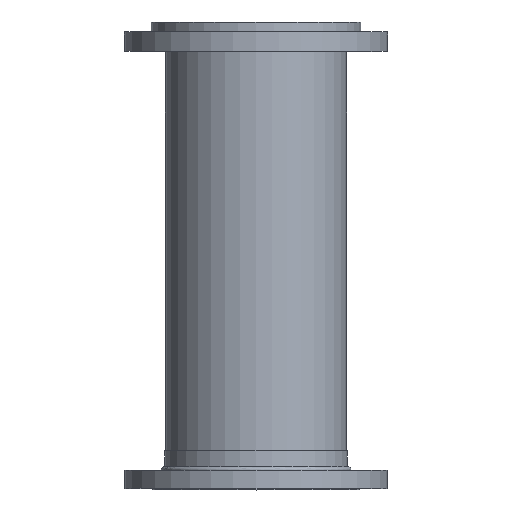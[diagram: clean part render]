
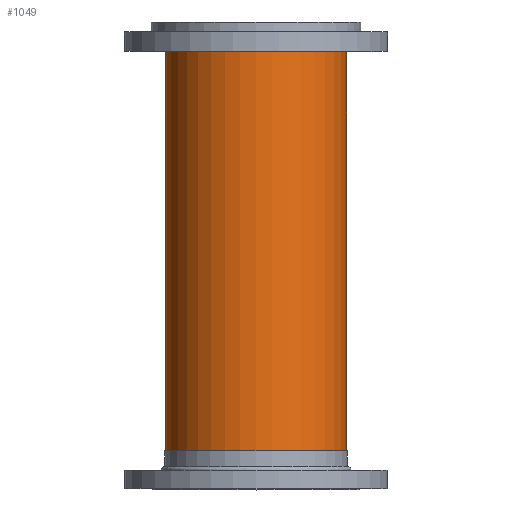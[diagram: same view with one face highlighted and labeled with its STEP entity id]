
A CAD part, top view. The second image highlights one B-rep face of the part: STEP entity #1049.
In plain terms, the highlighted cylindrical face has radius 117.983 mm (diameter 235.966 mm), a full revolution.
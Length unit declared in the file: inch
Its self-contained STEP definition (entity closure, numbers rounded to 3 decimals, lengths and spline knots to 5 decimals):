
#1015=CARTESIAN_POINT('',(-4.645,-11.25,0.));
#1016=VERTEX_POINT('',#1015);
#1017=CARTESIAN_POINT('',(0.0,-11.25,0.0));
#1018=DIRECTION('',(0.0,1.0,0.0));
#1019=DIRECTION('',(1.0,0.0,0.0));
#1020=AXIS2_PLACEMENT_3D('',#1017,#1018,#1019);
#1021=CIRCLE('',#1020,4.645);
#1022=EDGE_CURVE('',#1016,#1016,#1021,.T.);
#1030=CARTESIAN_POINT('',(0.0,0.0,0.0));
#1031=DIRECTION('',(0.0,1.0,0.0));
#1032=DIRECTION('',(1.0,0.0,0.0));
#1033=AXIS2_PLACEMENT_3D('',#1030,#1031,#1032);
#1034=CYLINDRICAL_SURFACE('',#1033,4.645);
#1035=ORIENTED_EDGE('',*,*,#1022,.T.);
#1036=EDGE_LOOP('',(#1035));
#1037=FACE_OUTER_BOUND('',#1036,.T.);
#1038=CARTESIAN_POINT('',(-4.645,11.25,0.));
#1039=VERTEX_POINT('',#1038);
#1040=CARTESIAN_POINT('',(0.0,11.25,0.0));
#1041=DIRECTION('',(0.0,-1.0,0.0));
#1042=DIRECTION('',(1.0,0.0,0.0));
#1043=AXIS2_PLACEMENT_3D('',#1040,#1041,#1042);
#1044=CIRCLE('',#1043,4.645);
#1045=EDGE_CURVE('',#1039,#1039,#1044,.T.);
#1046=ORIENTED_EDGE('',*,*,#1045,.T.);
#1047=EDGE_LOOP('',(#1046));
#1048=FACE_BOUND('',#1047,.T.);
#1049=ADVANCED_FACE('',(#1037,#1048),#1034,.T.);
